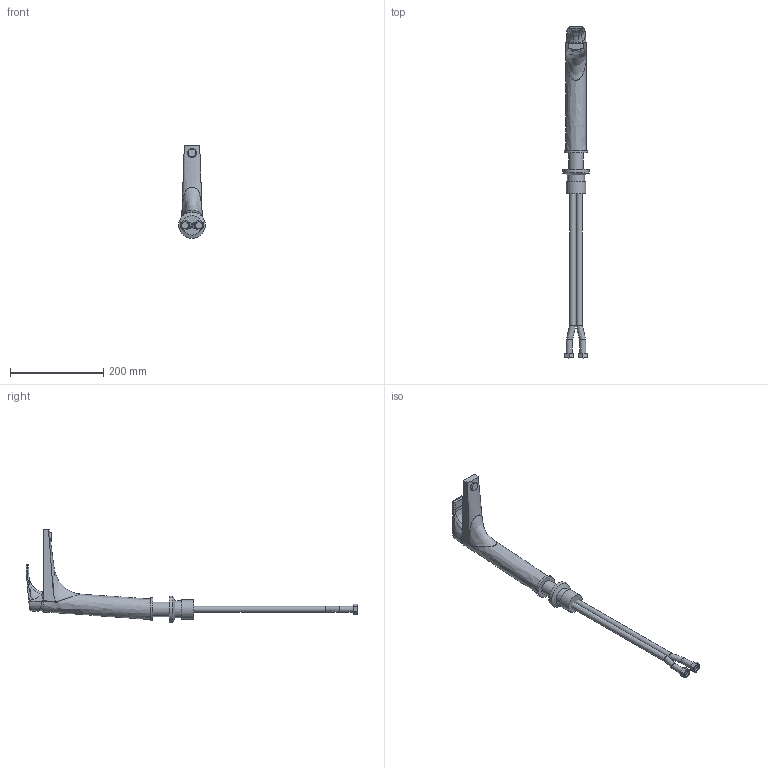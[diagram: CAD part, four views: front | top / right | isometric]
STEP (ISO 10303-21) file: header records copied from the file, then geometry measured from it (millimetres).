
FILE_DESCRIPTION(/* description */ ('SIGMA Bateria umywalkowa stojąca wysoka'),/* implementation_level */ '2;1');
FILE_NAME(/* name */ 'C:\Nextcloud\02_biblioteki_cad\Valvex\Projekt\PROJECTS\Eksport\ETAP 4\2456140\2456140.stp',/* time_stamp */ '2021-08-09T10:49:48+02:00',/* author */ ('Cadventure'),/* organization */ (''),/* preprocessor_version */ 'ST-DEVELOPER v18.1',/* originating_system */ 'Autodesk Inventor 2020',/* authorisation */ '');
FILE_SCHEMA (('AUTOMOTIVE_DESIGN { 1 0 10303 214 3 1 1 }'));
Length unit declared in the file: millimetre
Products named in the file (1): 2456140
Bounding box: 56.62 x 711.46 x 199.33 mm (x, y, z)
Volume: 776770.8 mm3; surface area: 117507.7 mm2
Topology: 5 solids, 5 shells, 79 faces, 196 edges, 134 vertices
Faces by surface type: plane 34, bspline 28, cylinder 15, sphere 1, cone 1
Full cylindrical faces by diameter (mm): 8 x1, 13 x2, 15 x2, 31 x1, 37 x1, 42 x1, 50 x1, 56.622 x1
Entity records: 3818 total; most frequent: CARTESIAN_POINT 1930, ORIENTED_EDGE 386, DIRECTION 313, EDGE_CURVE 193, VERTEX_POINT 134, AXIS2_PLACEMENT_3D 127, EDGE_LOOP 89, STYLED_ITEM 84
